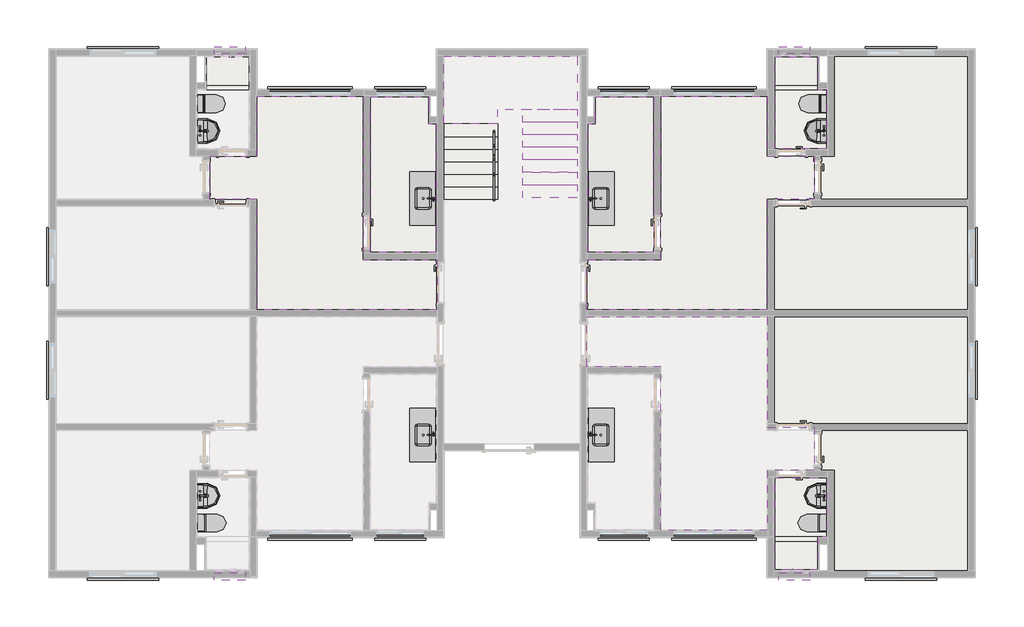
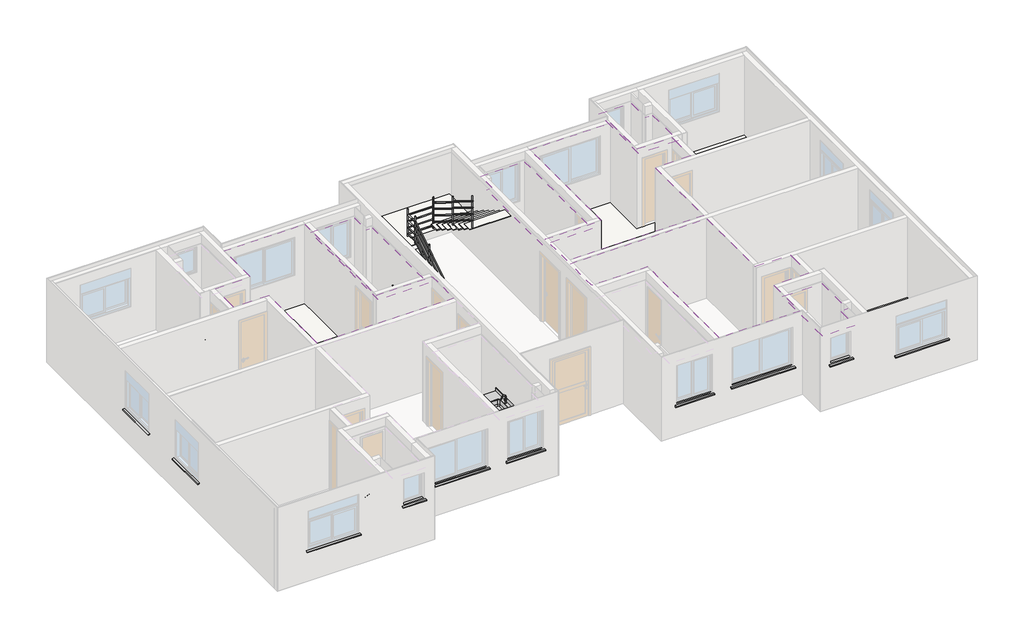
# One storey, part 9 of 9: 31 slabs, 24 flow terminals, 20 proxies, 7 coverings, 4 furniture elements, 1 railing.
"""IFC4 building model written with IfcOpenShell, lengths in millimetres."""

from ifc_helpers import new_model, si_unit, frame, origin, place, context, project, spatial, polyline, outline, extrude, faceted_brep, transform, mapped, element, save
from components import peitoril_peitoril_3_cm_d5d00cd0, peitoril_peitoril_3_cm_9406f1cb, peitoril_peitoril_3_cm_188c827f, peitoril_peitoril_3_cm_88708ed2, peitoril_peitoril_3_cm_319a31b0, peitoril_peitoril_3_cm_ceeb61d0, peitoril_peitoril_3_cm_04364ac9, peitoril_peitoril_3_cm_3798d146, peitoril_peitoril_3_cm_e052e7be, peitoril_peitoril_3_cm_b809ef5a, flow_terminal_fb00f1ee, flow_terminal_a2c34cfb, flow_terminal_2b854958, flow_terminal_a1eea942, flow_terminal_109c0629, flow_terminal_5e795d7a, flow_terminal_b1bb3d39, flow_terminal_9a69dd1e, flow_terminal_59b935d0, flow_terminal_63f1f31f, furniture_4236819a, furniture_3bfc2c75, metalico_900mm_db347fa3

model = new_model("IFC4")

# Units and contexts
model_context = context("Model", 3, world=origin())
ifc_project = project(units=[si_unit("LENGTHUNIT", "METRE", prefix="MILLI")], contexts=[model_context])

# Site, building, storey
site = spatial("IfcSite", under=ifc_project)
building = spatial("IfcBuilding", under=site)
storey = spatial("IfcBuildingStorey", under=building, Name="3º Pavimento", Elevation=5260.0)

# Proxies
placement = place(None, origin())
peitoril_peitoril_3_cm_shape = peitoril_peitoril_3_cm_d5d00cd0(model_context)
element("IfcBuildingElementProxy", 1, Name="Peitoril : Peitoril 3 cm", ObjectType="Peitoril : Peitoril 3 cm", at=placement, inside=storey, context=model_context, shape_type="MappedRepresentation", body=[
    mapped(peitoril_peitoril_3_cm_shape, transform((1513.1839943, 12261.3233304, 5350.0), x_axis=(1.0, 0.0, 0.0), y_axis=(0.0, 1.0, 0.0), z_axis=(0.0, 0.0, 1.0))),
])
element("IfcBuildingElementProxy", 2, Name="Peitoril : Peitoril 3 cm", ObjectType="Peitoril : Peitoril 3 cm", at=placement, inside=storey, context=model_context, shape_type="MappedRepresentation", body=[
    mapped(peitoril_peitoril_3_cm_shape, transform((19306.810713, 538.6971587, 5350.0), x_axis=(-1.0, 0.0, 0.0), y_axis=(0.0, -1.0, 0.0), z_axis=(0.0, 0.0, 1.0))),
])
peitoril_peitoril_3_cm_2_shape = peitoril_peitoril_3_cm_9406f1cb(model_context)
element("IfcBuildingElementProxy", 3, Name="Peitoril : Peitoril 3 cm", ObjectType="Peitoril : Peitoril 3 cm", at=placement, inside=storey, context=model_context, shape_type="MappedRepresentation", body=[
    mapped(peitoril_peitoril_3_cm_2_shape, transform((88.7010956, 7513.1959901, 5350.0), x_axis=(0.0, 1.0, 0.0), y_axis=(-1.0, 0.0, 0.0), z_axis=(0.0, 0.0, 1.0))),
])
element("IfcBuildingElementProxy", 4, Name="Peitoril : Peitoril 3 cm", ObjectType="Peitoril : Peitoril 3 cm", at=placement, inside=storey, context=model_context, shape_type="MappedRepresentation", body=[
    mapped(peitoril_peitoril_3_cm_2_shape, transform((88.7010956, 4963.1957378, 5350.0), x_axis=(0.0, 1.0, 0.0), y_axis=(-1.0, 0.0, 0.0), z_axis=(0.0, 0.0, 1.0))),
])
peitoril_peitoril_3_cm_3_shape = peitoril_peitoril_3_cm_188c827f(model_context)
element("IfcBuildingElementProxy", 5, Name="Peitoril : Peitoril 3 cm", ObjectType="Peitoril : Peitoril 3 cm", at=placement, inside=storey, context=model_context, shape_type="MappedRepresentation", body=[
    mapped(peitoril_peitoril_3_cm_3_shape, transform((5713.1848, 11361.3203873, 5350.0), x_axis=(1.0, 0.0, 0.0), y_axis=(0.0, 1.0, 0.0), z_axis=(0.0, 0.0, 1.0))),
])
element("IfcBuildingElementProxy", 6, Name="Peitoril : Peitoril 3 cm", ObjectType="Peitoril : Peitoril 3 cm", at=placement, inside=storey, context=model_context, shape_type="MappedRepresentation", body=[
    mapped(peitoril_peitoril_3_cm_3_shape, transform((15106.8099074, 1438.7002405, 5350.0), x_axis=(-1.0, 0.0, 0.0), y_axis=(0.0, -1.0, 0.0), z_axis=(0.0, 0.0, 1.0))),
])
peitoril_peitoril_3_cm_4_shape = peitoril_peitoril_3_cm_88708ed2(model_context)
element("IfcBuildingElementProxy", 7, Name="Peitoril : Peitoril 3 cm", ObjectType="Peitoril : Peitoril 3 cm", at=placement, inside=storey, context=model_context, shape_type="MappedRepresentation", body=[
    mapped(peitoril_peitoril_3_cm_4_shape, transform((3908.1841972, 12261.3236799, 5750.0), x_axis=(1.0, 0.0, 0.0), y_axis=(0.0, 1.0, 0.0), z_axis=(0.0, 0.0, 1.0))),
])
element("IfcBuildingElementProxy", 8, Name="Peitoril : Peitoril 3 cm", ObjectType="Peitoril : Peitoril 3 cm", at=placement, inside=storey, context=model_context, shape_type="MappedRepresentation", body=[
    mapped(peitoril_peitoril_3_cm_4_shape, transform((16911.8105102, 538.6971587, 5750.0), x_axis=(-1.0, 0.0, 0.0), y_axis=(0.0, -1.0, 0.0), z_axis=(0.0, 0.0, 1.0))),
])
peitoril_peitoril_3_cm_5_shape = peitoril_peitoril_3_cm_319a31b0(model_context)
element("IfcBuildingElementProxy", 9, Name="Peitoril : Peitoril 3 cm", ObjectType="Peitoril : Peitoril 3 cm", at=placement, inside=storey, context=model_context, shape_type="MappedRepresentation", body=[
    mapped(peitoril_peitoril_3_cm_5_shape, transform((7738.18476, 11361.3203873, 5350.0), x_axis=(1.0, 0.0, 0.0), y_axis=(0.0, 1.0, 0.0), z_axis=(0.0, 0.0, 1.0))),
])
element("IfcBuildingElementProxy", 10, Name="Peitoril : Peitoril 3 cm", ObjectType="Peitoril : Peitoril 3 cm", at=placement, inside=storey, context=model_context, shape_type="MappedRepresentation", body=[
    mapped(peitoril_peitoril_3_cm_5_shape, transform((8061.8136599, 1438.7002405, 5350.0), x_axis=(-1.0, 0.0, 0.0), y_axis=(0.0, -1.0, 0.0), z_axis=(0.0, 0.0, 1.0))),
])
peitoril_peitoril_3_cm_6_shape = peitoril_peitoril_3_cm_ceeb61d0(model_context)
element("IfcBuildingElementProxy", 11, Name="Peitoril : Peitoril 3 cm", ObjectType="Peitoril : Peitoril 3 cm", at=placement, inside=storey, context=model_context, shape_type="MappedRepresentation", body=[
    mapped(peitoril_peitoril_3_cm_6_shape, transform((5713.1848, 1438.7002405, 5350.0), x_axis=(1.0, 0.0, 0.0), y_axis=(0.0, 1.0, 0.0), z_axis=(0.0, 0.0, 1.0))),
])
element("IfcBuildingElementProxy", 12, Name="Peitoril : Peitoril 3 cm", ObjectType="Peitoril : Peitoril 3 cm", at=placement, inside=storey, context=model_context, shape_type="MappedRepresentation", body=[
    mapped(peitoril_peitoril_3_cm_6_shape, transform((15106.8099074, 11361.3203873, 5350.0), x_axis=(-1.0, 0.0, 0.0), y_axis=(0.0, -1.0, 0.0), z_axis=(0.0, 0.0, 1.0))),
])
peitoril_peitoril_3_cm_7_shape = peitoril_peitoril_3_cm_04364ac9(model_context)
element("IfcBuildingElementProxy", 13, Name="Peitoril : Peitoril 3 cm", ObjectType="Peitoril : Peitoril 3 cm", at=placement, inside=storey, context=model_context, shape_type="MappedRepresentation", body=[
    mapped(peitoril_peitoril_3_cm_7_shape, transform((1513.1839943, 538.6971587, 5350.0), x_axis=(1.0, 0.0, 0.0), y_axis=(0.0, 1.0, 0.0), z_axis=(0.0, 0.0, 1.0))),
])
element("IfcBuildingElementProxy", 14, Name="Peitoril : Peitoril 3 cm", ObjectType="Peitoril : Peitoril 3 cm", at=placement, inside=storey, context=model_context, shape_type="MappedRepresentation", body=[
    mapped(peitoril_peitoril_3_cm_7_shape, transform((19306.810713, 12261.3233304, 5350.0), x_axis=(-1.0, 0.0, 0.0), y_axis=(0.0, -1.0, 0.0), z_axis=(0.0, 0.0, 1.0))),
])
peitoril_peitoril_3_cm_8_shape = peitoril_peitoril_3_cm_3798d146(model_context)
element("IfcBuildingElementProxy", 15, Name="Peitoril : Peitoril 3 cm", ObjectType="Peitoril : Peitoril 3 cm", at=placement, inside=storey, context=model_context, shape_type="MappedRepresentation", body=[
    mapped(peitoril_peitoril_3_cm_8_shape, transform((3908.1841972, 538.6971587, 5750.0), x_axis=(1.0, 0.0, 0.0), y_axis=(0.0, 1.0, 0.0), z_axis=(0.0, 0.0, 1.0))),
])
element("IfcBuildingElementProxy", 16, Name="Peitoril : Peitoril 3 cm", ObjectType="Peitoril : Peitoril 3 cm", at=placement, inside=storey, context=model_context, shape_type="MappedRepresentation", body=[
    mapped(peitoril_peitoril_3_cm_8_shape, transform((16911.8105102, 12261.3236799, 5750.0), x_axis=(-1.0, 0.0, 0.0), y_axis=(0.0, -1.0, 0.0), z_axis=(0.0, 0.0, 1.0))),
])
peitoril_peitoril_3_cm_9_shape = peitoril_peitoril_3_cm_e052e7be(model_context)
element("IfcBuildingElementProxy", 17, Name="Peitoril : Peitoril 3 cm", ObjectType="Peitoril : Peitoril 3 cm", at=placement, inside=storey, context=model_context, shape_type="MappedRepresentation", body=[
    mapped(peitoril_peitoril_3_cm_9_shape, transform((20731.2936118, 7513.1959901, 5350.0), x_axis=(0.0, 1.0, 0.0), y_axis=(-1.0, 0.0, 0.0), z_axis=(0.0, 0.0, 1.0))),
])
element("IfcBuildingElementProxy", 18, Name="Peitoril : Peitoril 3 cm", ObjectType="Peitoril : Peitoril 3 cm", at=placement, inside=storey, context=model_context, shape_type="MappedRepresentation", body=[
    mapped(peitoril_peitoril_3_cm_9_shape, transform((20731.2936118, 4963.1957378, 5350.0), x_axis=(0.0, 1.0, 0.0), y_axis=(-1.0, 0.0, 0.0), z_axis=(0.0, 0.0, 1.0))),
])
peitoril_peitoril_3_cm_10_shape = peitoril_peitoril_3_cm_b809ef5a(model_context)
element("IfcBuildingElementProxy", 19, Name="Peitoril : Peitoril 3 cm", ObjectType="Peitoril : Peitoril 3 cm", at=placement, inside=storey, context=model_context, shape_type="MappedRepresentation", body=[
    mapped(peitoril_peitoril_3_cm_10_shape, transform((13081.8099474, 11361.3203873, 5350.0), x_axis=(-1.0, 0.0, 0.0), y_axis=(0.0, -1.0, 0.0), z_axis=(0.0, 0.0, 1.0))),
])
element("IfcBuildingElementProxy", 20, Name="Peitoril : Peitoril 3 cm", ObjectType="Peitoril : Peitoril 3 cm", at=placement, inside=storey, context=model_context, shape_type="MappedRepresentation", body=[
    mapped(peitoril_peitoril_3_cm_10_shape, transform((12758.1810474, 1438.7002405, 5350.0), x_axis=(1.0, 0.0, 0.0), y_axis=(0.0, 1.0, 0.0), z_axis=(0.0, 0.0, 1.0))),
])

# Coverings
element("IfcCovering", 21, ObjectType="Forro - Gesso acartonado + Pintura", at=placement, inside=storey, context=model_context, shape_type="Brep", body=[
    faceted_brep([(7233.0017324, 11260.0223004, 7461.0), (8536.99631, 11260.0223004, 7461.0), (8536.99631, 10655.0073729, 7461.0), (8709.9963008, 10655.0073729, 7461.0), (8709.9963008, 7766.3603139, 7461.0), (7233.0017324, 7766.3603139, 7461.0), (7233.0017324, 10655.0073729, 7461.0), (7233.0017324, 11260.0223004, 7481.0), (7233.0017324, 10655.0073729, 7481.0), (7233.0017324, 7766.3603139, 7481.0), (8709.9963008, 7766.3603139, 7481.0), (8709.9963008, 10655.0073729, 7481.0), (8536.99631, 10655.0073729, 7481.0), (8536.99631, 11260.0223004, 7481.0)], [[[0, 1, 2, 3, 4, 5, 6]], [[7, 8, 9, 10, 11, 12, 13]], [[7, 13, 1, 0]], [[13, 12, 2, 1]], [[12, 11, 3, 2]], [[11, 10, 4, 3]], [[10, 9, 5, 4]], [[9, 8, 7, 0, 6, 5]]]),
    faceted_brep([(8536.99631, 11260.0223004, 7460.0), (7233.0017324, 11260.0223004, 7460.0), (7233.0017324, 11260.0223004, 7461.0), (8536.99631, 11260.0223004, 7461.0), (8536.99631, 10655.0073729, 7460.0), (8536.99631, 10655.0073729, 7461.0), (8709.9963008, 10655.0073729, 7460.0), (8709.9963008, 10655.0073729, 7461.0), (8709.9963008, 7766.3603139, 7460.0), (8709.9963008, 7766.3603139, 7461.0), (7233.0017324, 7766.3603139, 7460.0), (7233.0017324, 7766.3603139, 7461.0), (7233.0017324, 10655.0073729, 7460.0), (7233.0017324, 10655.0073729, 7461.0)], [[[0, 1, 2, 3]], [[4, 0, 3, 5]], [[6, 4, 5, 7]], [[8, 6, 7, 9]], [[10, 8, 9, 11]], [[12, 10, 11, 13, 2, 1]], [[3, 2, 13, 11, 9, 7, 5]], [[1, 0, 4, 6, 8, 10, 12]]]),
])
element("IfcCovering", 22, ObjectType="Forro - Gesso acartonado + Pintura", at=placement, inside=storey, context=model_context, shape_type="Brep", body=[
    faceted_brep([(12282.9983974, 11260.0223004, 7461.0), (13586.992975, 11260.0223004, 7461.0), (13586.992975, 10655.0073729, 7461.0), (13586.992975, 7766.3603139, 7461.0), (12109.9984066, 7766.3603139, 7461.0), (12109.9984066, 10655.0073729, 7461.0), (12282.9983974, 10655.0073729, 7461.0), (13586.992975, 11260.0223004, 7481.0), (12282.9983974, 11260.0223004, 7481.0), (12282.9983974, 10655.0073729, 7481.0), (12109.9984066, 10655.0073729, 7481.0), (12109.9984066, 7766.3603139, 7481.0), (13586.992975, 7766.3603139, 7481.0), (13586.992975, 10655.0073729, 7481.0)], [[[0, 1, 2, 3, 4, 5, 6]], [[7, 8, 9, 10, 11, 12, 13]], [[8, 7, 1, 0]], [[9, 8, 0, 6]], [[10, 9, 6, 5]], [[11, 10, 5, 4]], [[12, 11, 4, 3]], [[7, 13, 12, 3, 2, 1]]]),
    faceted_brep([(13586.992975, 11260.0223004, 7460.0), (12282.9983974, 11260.0223004, 7460.0), (12282.9983974, 11260.0223004, 7461.0), (13586.992975, 11260.0223004, 7461.0), (12282.9983974, 10655.0073729, 7460.0), (12282.9983974, 10655.0073729, 7461.0), (12109.9984066, 10655.0073729, 7460.0), (12109.9984066, 10655.0073729, 7461.0), (12109.9984066, 7766.3603139, 7460.0), (12109.9984066, 7766.3603139, 7461.0), (13586.992975, 7766.3603139, 7460.0), (13586.992975, 7766.3603139, 7461.0), (13586.992975, 10655.0073729, 7460.0), (13586.992975, 10655.0073729, 7461.0)], [[[0, 1, 2, 3]], [[1, 4, 5, 2]], [[4, 6, 7, 5]], [[6, 8, 9, 7]], [[8, 10, 11, 9]], [[12, 0, 3, 13, 11, 10]], [[3, 2, 5, 7, 9, 11, 13]], [[0, 12, 10, 8, 6, 4, 1]]]),
])
element("IfcCovering", 23, ObjectType="Forro - Gesso acartonado + Pintura", at=placement, inside=storey, context=model_context, shape_type="Brep", body=[
    faceted_brep([(16309.9956991, 2709.9967615, 7461.0), (17479.9970535, 2709.9967615, 7461.0), (17479.9970535, 1379.9983274, 7461.0), (17270.0007274, 1379.9983274, 7461.0), (17270.0007274, 639.9950349, 7461.0), (16309.9956991, 639.9950349, 7461.0), (16309.9956991, 1379.9983274, 7461.0), (16309.9956991, 2709.9967615, 7481.0), (16309.9956991, 1379.9983274, 7481.0), (16309.9956991, 639.9950349, 7481.0), (17270.0007274, 639.9950349, 7481.0), (17270.0007274, 1379.9983274, 7481.0), (17479.9970535, 1379.9983274, 7481.0), (17479.9970535, 2709.9967615, 7481.0)], [[[0, 1, 2, 3, 4, 5, 6]], [[7, 8, 9, 10, 11, 12, 13]], [[7, 13, 1, 0]], [[13, 12, 2, 1]], [[12, 11, 3, 2]], [[11, 10, 4, 3]], [[10, 9, 5, 4]], [[9, 8, 7, 0, 6, 5]]]),
    faceted_brep([(17479.9970535, 2709.9967615, 7460.0), (16309.9956991, 2709.9967615, 7460.0), (16309.9956991, 2709.9967615, 7461.0), (17479.9970535, 2709.9967615, 7461.0), (17479.9970535, 1379.9983274, 7460.0), (17479.9970535, 1379.9983274, 7461.0), (17270.0007274, 1379.9983274, 7460.0), (17270.0007274, 1379.9983274, 7461.0), (17270.0007274, 639.9950349, 7460.0), (17270.0007274, 639.9950349, 7461.0), (16309.9956991, 639.9950349, 7460.0), (16309.9956991, 639.9950349, 7461.0), (16309.9956991, 1379.9983274, 7460.0), (16309.9956991, 1379.9983274, 7461.0)], [[[0, 1, 2, 3]], [[4, 0, 3, 5]], [[6, 4, 5, 7]], [[8, 6, 7, 9]], [[10, 8, 9, 11]], [[12, 10, 11, 13, 2, 1]], [[3, 2, 13, 11, 9, 7, 5]], [[1, 0, 4, 6, 8, 10, 12]]]),
])
element("IfcCovering", 24, ObjectType="Forro - Gesso acartonado + Pintura", at=placement, inside=storey, context=model_context, shape_type="Brep", body=[
    faceted_brep([(17479.9970535, 10090.0238664, 7461.0), (16309.9956991, 10090.0238664, 7461.0), (16309.9956991, 11420.0223004, 7461.0), (16309.9956991, 12160.025593, 7461.0), (17270.0007274, 12160.025593, 7461.0), (17270.0007274, 11420.0223004, 7461.0), (17479.9970535, 11420.0223004, 7461.0), (16309.9956991, 10090.0238664, 7481.0), (17479.9970535, 10090.0238664, 7481.0), (17479.9970535, 11420.0223004, 7481.0), (17270.0007274, 11420.0223004, 7481.0), (17270.0007274, 12160.025593, 7481.0), (16309.9956991, 12160.025593, 7481.0), (16309.9956991, 11420.0223004, 7481.0)], [[[0, 1, 2, 3, 4, 5, 6]], [[7, 8, 9, 10, 11, 12, 13]], [[8, 7, 1, 0]], [[9, 8, 0, 6]], [[10, 9, 6, 5]], [[11, 10, 5, 4]], [[12, 11, 4, 3]], [[7, 13, 12, 3, 2, 1]]]),
    faceted_brep([(16309.9956991, 10090.0238664, 7460.0), (17479.9970535, 10090.0238664, 7460.0), (17479.9970535, 10090.0238664, 7461.0), (16309.9956991, 10090.0238664, 7461.0), (17479.9970535, 11420.0223004, 7460.0), (17479.9970535, 11420.0223004, 7461.0), (17270.0007274, 11420.0223004, 7460.0), (17270.0007274, 11420.0223004, 7461.0), (17270.0007274, 12160.025593, 7460.0), (17270.0007274, 12160.025593, 7461.0), (16309.9956991, 12160.025593, 7460.0), (16309.9956991, 12160.025593, 7461.0), (16309.9956991, 11420.0223004, 7460.0), (16309.9956991, 11420.0223004, 7461.0)], [[[0, 1, 2, 3]], [[1, 4, 5, 2]], [[4, 6, 7, 5]], [[6, 8, 9, 7]], [[8, 10, 11, 9]], [[12, 0, 3, 13, 11, 10]], [[3, 2, 5, 7, 9, 11, 13]], [[0, 12, 10, 8, 6, 4, 1]]]),
])
element("IfcCovering", 25, ObjectType="Textura Laje", at=placement, inside=storey, context=model_context, shape_type="SweptSolid", body=[
    extrude(outline(polyline([(174.9991825, 12175.0252435), (3174.9977061, 12175.0252435), (3174.9977061, 9925.0238664), (3474.9980641, 9925.0238664), (3474.9980641, 8955.0254246), (174.9991825, 8955.0254246), (174.9991825, 12175.0252435)])), frame((0.0, 0.0, 7768.0), z_axis=(0.0, 0.0, 1.0), x_axis=(1.0, 0.0, 0.0)), (0.0, 0.0, 1.0), 2.0),
    extrude(outline(polyline([(174.9992567, 8805.0103139), (4524.9996867, 8805.0103139), (4524.9996867, 6475.0103139), (174.9992567, 6475.0103139), (174.9992567, 8805.0103139)])), frame((0.0, 0.0, 7768.0), z_axis=(0.0, 0.0, 1.0), x_axis=(1.0, 0.0, 0.0)), (0.0, 0.0, 1.0), 2.0),
    extrude(outline(polyline([(4675.9996867, 8956.0244803), (3625.9980641, 8956.0244803), (3625.9980641, 9924.0238664), (4675.9990083, 9924.0238664), (4675.9990083, 11274.0223004), (7066.9986861, 11274.0223004), (7066.9986861, 7600.3603139), (8709.865378, 7600.3603139), (8729.9963008, 7600.3603139), (8729.9963008, 6476.0103139), (4675.9996867, 6476.0103139), (4675.9996867, 8956.0244803)])), frame((0.0, 0.0, 7768.0), z_axis=(0.0, 0.0, 1.0), x_axis=(1.0, 0.0, 0.0)), (0.0, 0.0, 1.0), 2.0),
])
element("IfcCovering", 26, ObjectType="Textura Laje", at=placement, inside=storey, context=model_context, shape_type="SweptSolid", body=[
    extrude(outline(polyline([(20644.9955249, 12175.0252435), (20644.9955249, 8955.0254246), (17344.9966432, 8955.0254246), (17344.9966432, 9925.0238664), (17644.9970013, 9925.0238664), (17644.9970013, 12175.0252435), (20644.9955249, 12175.0252435)])), frame((0.0, 0.0, 7768.0), z_axis=(0.0, 0.0, 1.0), x_axis=(1.0, 0.0, 0.0)), (0.0, 0.0, 1.0), 2.0),
    extrude(outline(polyline([(20644.9954507, 8805.0103139), (20644.9954507, 6475.0103139), (16294.9950207, 6475.0103139), (16294.9950207, 8805.0103139), (20644.9954507, 8805.0103139)])), frame((0.0, 0.0, 7768.0), z_axis=(0.0, 0.0, 1.0), x_axis=(1.0, 0.0, 0.0)), (0.0, 0.0, 1.0), 2.0),
    extrude(outline(polyline([(16143.9950207, 8956.0244803), (16143.9950207, 6476.0103139), (12089.9984066, 6476.0103139), (12089.9984066, 7600.3603139), (12110.1293293, 7600.3603139), (13752.9960213, 7600.3603139), (13752.9960213, 11274.0223004), (16143.9956991, 11274.0223004), (16143.9956991, 9924.0238664), (17193.9966432, 9924.0238664), (17193.9966432, 8956.0244803), (16143.9950207, 8956.0244803)])), frame((0.0, 0.0, 7768.0), z_axis=(0.0, 0.0, 1.0), x_axis=(1.0, 0.0, 0.0)), (0.0, 0.0, 1.0), 2.0),
])
element("IfcCovering", 27, ObjectType="Textura Laje", at=placement, inside=storey, context=model_context, shape_type="SweptSolid", body=[
    extrude(outline(polyline([(20644.9955249, 624.9953844), (17644.9970013, 624.9953844), (17644.9970013, 2874.9967615), (17344.9966432, 2874.9967615), (17344.9966432, 3844.9952033), (20644.9955249, 3844.9952033), (20644.9955249, 624.9953844)])), frame((0.0, 0.0, 7768.0), z_axis=(0.0, 0.0, 1.0), x_axis=(1.0, 0.0, 0.0)), (0.0, 0.0, 1.0), 2.0),
    extrude(outline(polyline([(20644.9954507, 3995.0103139), (16294.9950207, 3995.0103139), (16294.9950207, 6325.0103139), (20644.9954507, 6325.0103139), (20644.9954507, 3995.0103139)])), frame((0.0, 0.0, 7768.0), z_axis=(0.0, 0.0, 1.0), x_axis=(1.0, 0.0, 0.0)), (0.0, 0.0, 1.0), 2.0),
    extrude(outline(polyline([(16143.9950207, 3843.9961476), (17193.9966432, 3843.9961476), (17193.9966432, 2875.9967615), (16143.9956991, 2875.9967615), (16143.9956991, 1525.9983274), (13752.9960213, 1525.9983274), (13752.9960213, 5199.6603139), (12110.1293293, 5199.6603139), (12089.9984066, 5199.6603139), (12089.9984066, 6324.0103139), (16143.9950207, 6324.0103139), (16143.9950207, 3843.9961476)])), frame((0.0, 0.0, 7768.0), z_axis=(0.0, 0.0, 1.0), x_axis=(1.0, 0.0, 0.0)), (0.0, 0.0, 1.0), 2.0),
])

# Flow terminals
flow_terminal_shape = flow_terminal_fb00f1ee(model_context)
element("IfcFlowTerminal", 28, ObjectType="Deca_Shared_Assento_P.280 : Bacia Sanitária - Assento", at=placement, inside=storey, context=model_context, shape_type="MappedRepresentation", body=[
    mapped(flow_terminal_shape, transform((3526.0519567, 11100.2075997, 5670.0300928), x_axis=(0.0, 1.0, 0.0), y_axis=(0.0, 0.0, 1.0), z_axis=(1.0, 0.0, 0.0))),
])
element("IfcFlowTerminal", 29, ObjectType="Deca_Shared_Assento_P.280 : Bacia Sanitária - Assento", at=placement, inside=storey, context=model_context, shape_type="MappedRepresentation", body=[
    mapped(flow_terminal_shape, transform((17278.9427506, 1699.8130281, 5670.0300928), x_axis=(0.0, -1.0, 0.0), y_axis=(0.0, 0.0, 1.0), z_axis=(-1.0, 0.0, 0.0))),
])
flow_terminal_2_shape = flow_terminal_a2c34cfb(model_context)
element("IfcFlowTerminal", 30, ObjectType="DECA_BACIA SANITARIA WISH_P.280_CAIXA ACOPLADA : Bacia Sanitária - Caixa Acoplada Inferior", at=placement, inside=storey, context=model_context, shape_type="MappedRepresentation", body=[
    mapped(flow_terminal_2_shape, transform((3319.9976538, 11105.9659033, 5270.0), x_axis=(0.0, 1.0, 0.0), y_axis=(0.0, 0.0, 1.0), z_axis=(1.0, 0.0, 0.0))),
])
element("IfcFlowTerminal", 31, ObjectType="DECA_BACIA SANITARIA WISH_P.280_CAIXA ACOPLADA : Bacia Sanitária - Caixa Acoplada Inferior", at=placement, inside=storey, context=model_context, shape_type="MappedRepresentation", body=[
    mapped(flow_terminal_2_shape, transform((17484.9970535, 1694.0547246, 5270.0), x_axis=(0.0, -1.0, 0.0), y_axis=(0.0, 0.0, 1.0), z_axis=(-1.0, 0.0, 0.0))),
])
flow_terminal_3_shape = flow_terminal_2b854958(model_context)
element("IfcFlowTerminal", 32, ObjectType="Deca_Shared_Caixa Acoplada para Bacia_P.280 : Bacia Sanitária - Caixa Acoplada", at=placement, inside=storey, context=model_context, shape_type="MappedRepresentation", body=[
    mapped(flow_terminal_3_shape, transform((3329.9976538, 11105.9657159, 5670.0300928), x_axis=(0.0, 1.0, 0.0), y_axis=(0.0, 0.0, 1.0), z_axis=(1.0, 0.0, 0.0))),
])
element("IfcFlowTerminal", 33, ObjectType="Deca_Shared_Caixa Acoplada para Bacia_P.280 : Bacia Sanitária - Caixa Acoplada", at=placement, inside=storey, context=model_context, shape_type="MappedRepresentation", body=[
    mapped(flow_terminal_3_shape, transform((17474.9970535, 1694.0549119, 5670.0300928), x_axis=(0.0, -1.0, 0.0), y_axis=(0.0, 0.0, 1.0), z_axis=(-1.0, 0.0, 0.0))),
])
flow_terminal_4_shape = flow_terminal_a1eea942(model_context)
element("IfcFlowTerminal", 34, ObjectType="DECA_BACIA SANITARIA WISH_P.280_CAIXA ACOPLADA : Bacia Sanitária - Caixa Acoplada Inferior", at=placement, inside=storey, context=model_context, shape_type="MappedRepresentation", body=[
    mapped(flow_terminal_4_shape, transform((3334.9976538, 1694.0547246, 5270.0), x_axis=(0.0, -1.0, 0.0), y_axis=(0.0, 0.0, -1.0), z_axis=(1.0, 0.0, 0.0))),
])
element("IfcFlowTerminal", 35, ObjectType="DECA_BACIA SANITARIA WISH_P.280_CAIXA ACOPLADA : Bacia Sanitária - Caixa Acoplada Inferior", at=placement, inside=storey, context=model_context, shape_type="MappedRepresentation", body=[
    mapped(flow_terminal_4_shape, transform((17499.9970535, 11105.9659033, 5270.0), x_axis=(0.0, 1.0, 0.0), y_axis=(0.0, 0.0, -1.0), z_axis=(-1.0, 0.0, 0.0))),
])
flow_terminal_5_shape = flow_terminal_109c0629(model_context)
element("IfcFlowTerminal", 36, ObjectType="Deca_Shared_Caixa Acoplada para Bacia_P.280 : Bacia Sanitária - Caixa Acoplada", at=placement, inside=storey, context=model_context, shape_type="MappedRepresentation", body=[
    mapped(flow_terminal_5_shape, transform((3344.9976538, 1694.0549119, 5670.0300928), x_axis=(0.0, -1.0, 0.0), y_axis=(0.0, 0.0, -1.0), z_axis=(1.0, 0.0, 0.0))),
])
element("IfcFlowTerminal", 37, ObjectType="Deca_Shared_Caixa Acoplada para Bacia_P.280 : Bacia Sanitária - Caixa Acoplada", at=placement, inside=storey, context=model_context, shape_type="MappedRepresentation", body=[
    mapped(flow_terminal_5_shape, transform((17489.9970535, 11105.9657159, 5670.0300928), x_axis=(0.0, 1.0, 0.0), y_axis=(0.0, 0.0, -1.0), z_axis=(-1.0, 0.0, 0.0))),
])
flow_terminal_6_shape = flow_terminal_5e795d7a(model_context)
element("IfcFlowTerminal", 38, ObjectType="Deca_Shared_Assento_P.280 : Bacia Sanitária - Assento", at=placement, inside=storey, context=model_context, shape_type="MappedRepresentation", body=[
    mapped(flow_terminal_6_shape, transform((3541.0519567, 1699.8130281, 5670.0300928), x_axis=(0.0, -1.0, 0.0), y_axis=(0.0, 0.0, -1.0), z_axis=(1.0, 0.0, 0.0))),
])
element("IfcFlowTerminal", 39, ObjectType="Deca_Shared_Assento_P.280 : Bacia Sanitária - Assento", at=placement, inside=storey, context=model_context, shape_type="MappedRepresentation", body=[
    mapped(flow_terminal_6_shape, transform((17293.9427506, 11100.2075997, 5670.0300928), x_axis=(0.0, 1.0, 0.0), y_axis=(0.0, 0.0, -1.0), z_axis=(-1.0, 0.0, 0.0))),
])
flow_terminal_7_shape = flow_terminal_b1bb3d39(model_context)
element("IfcFlowTerminal", 40, ObjectType="Deca_Lavatorio Belle Epoque_L.2_Coluna : Pia Banho", at=placement, inside=storey, context=model_context, shape_type="MappedRepresentation", body=[
    mapped(flow_terminal_7_shape, transform((3334.9976538, 2304.9967615, 6053.6791778), x_axis=(0.0, 1.0, 0.0), y_axis=(0.0, 0.0, 1.0), z_axis=(1.0, 0.0, 0.0))),
])
element("IfcFlowTerminal", 41, ObjectType="Deca_Lavatorio Belle Epoque_L.2_Coluna : Pia Banho", at=placement, inside=storey, context=model_context, shape_type="MappedRepresentation", body=[
    mapped(flow_terminal_7_shape, transform((17484.9970535, 10495.0238664, 6053.6791778), x_axis=(0.0, -1.0, 0.0), y_axis=(0.0, 0.0, 1.0), z_axis=(-1.0, 0.0, 0.0))),
])
flow_terminal_8_shape = flow_terminal_9a69dd1e(model_context)
element("IfcFlowTerminal", 42, ObjectType="Deca_Lavatorio Belle Epoque_L.2_Coluna : Pia Banho", at=placement, inside=storey, context=model_context, shape_type="MappedRepresentation", body=[
    mapped(flow_terminal_8_shape, transform((3334.9976538, 10495.0238664, 6053.6791778), x_axis=(0.0, -1.0, 0.0), y_axis=(0.0, 0.0, -1.0), z_axis=(1.0, 0.0, 0.0))),
])
element("IfcFlowTerminal", 43, ObjectType="Deca_Lavatorio Belle Epoque_L.2_Coluna : Pia Banho", at=placement, inside=storey, context=model_context, shape_type="MappedRepresentation", body=[
    mapped(flow_terminal_8_shape, transform((17484.9970535, 2304.9967615, 6053.6791778), x_axis=(0.0, 1.0, 0.0), y_axis=(0.0, 0.0, -1.0), z_axis=(-1.0, 0.0, 0.0))),
])
flow_terminal_9_shape = flow_terminal_59b935d0(model_context)
element("IfcFlowTerminal", 44, ObjectType="Deca_Torneira Lavatorio Izy Plus_1198.C24_Mesa Bica Alta : Torneira Cozinha", at=placement, inside=storey, context=model_context, shape_type="MappedRepresentation", body=[
    mapped(flow_terminal_9_shape, transform((8646.99867, 8980.0223004, 6210.0), x_axis=(0.0, -1.0, 0.0), y_axis=(1.0, 0.0, 0.0), z_axis=(0.0, 0.0, 1.0))),
])
element("IfcFlowTerminal", 45, ObjectType="Deca_Torneira Lavatorio Izy Plus_1198.C24_Mesa Bica Alta : Torneira Cozinha", at=placement, inside=storey, context=model_context, shape_type="MappedRepresentation", body=[
    mapped(flow_terminal_9_shape, transform((3406.8910521, 10494.3801324, 6071.5038992), x_axis=(0.0, 1.0, 0.0), y_axis=(-1.0, 0.0, 0.0), z_axis=(0.0, 0.0, 1.0))),
])
element("IfcFlowTerminal", 46, ObjectType="Deca_Torneira Lavatorio Izy Plus_1198.C24_Mesa Bica Alta : Torneira Cozinha", at=placement, inside=storey, context=model_context, shape_type="MappedRepresentation", body=[
    mapped(flow_terminal_9_shape, transform((12172.9960374, 3669.9874185, 6210.0), x_axis=(0.0, 1.0, 0.0), y_axis=(-1.0, 0.0, 0.0), z_axis=(0.0, 0.0, 1.0))),
])
element("IfcFlowTerminal", 47, ObjectType="Deca_Torneira Lavatorio Izy Plus_1198.C24_Mesa Bica Alta : Torneira Cozinha", at=placement, inside=storey, context=model_context, shape_type="MappedRepresentation", body=[
    mapped(flow_terminal_9_shape, transform((17413.1036553, 2305.6404955, 6071.5038992), x_axis=(0.0, -1.0, 0.0), y_axis=(1.0, 0.0, 0.0), z_axis=(0.0, 0.0, 1.0))),
])
flow_terminal_10_shape = flow_terminal_63f1f31f(model_context)
element("IfcFlowTerminal", 48, ObjectType="Deca_Torneira Lavatorio Izy Plus_1198.C24_Mesa Bica Alta : Torneira Cozinha", at=placement, inside=storey, context=model_context, shape_type="MappedRepresentation", body=[
    mapped(flow_terminal_10_shape, transform((8646.99867, 3669.9874185, 6210.0), x_axis=(0.0, 1.0, 0.0), y_axis=(-1.0, 0.0, 0.0), z_axis=(0.0, 0.0, 1.0))),
])
element("IfcFlowTerminal", 49, ObjectType="Deca_Torneira Lavatorio Izy Plus_1198.C24_Mesa Bica Alta : Torneira Cozinha", at=placement, inside=storey, context=model_context, shape_type="MappedRepresentation", body=[
    mapped(flow_terminal_10_shape, transform((3406.8910521, 2305.6404955, 6071.5038992), x_axis=(0.0, -1.0, 0.0), y_axis=(1.0, 0.0, 0.0), z_axis=(0.0, 0.0, 1.0))),
])
element("IfcFlowTerminal", 50, ObjectType="Deca_Torneira Lavatorio Izy Plus_1198.C24_Mesa Bica Alta : Torneira Cozinha", at=placement, inside=storey, context=model_context, shape_type="MappedRepresentation", body=[
    mapped(flow_terminal_10_shape, transform((12172.9960374, 8980.0223004, 6210.0), x_axis=(0.0, -1.0, 0.0), y_axis=(1.0, 0.0, 0.0), z_axis=(0.0, 0.0, 1.0))),
])
element("IfcFlowTerminal", 51, ObjectType="Deca_Torneira Lavatorio Izy Plus_1198.C24_Mesa Bica Alta : Torneira Cozinha", at=placement, inside=storey, context=model_context, shape_type="MappedRepresentation", body=[
    mapped(flow_terminal_10_shape, transform((17413.1036553, 10494.3801324, 6071.5038992), x_axis=(0.0, 1.0, 0.0), y_axis=(-1.0, 0.0, 0.0), z_axis=(0.0, 0.0, 1.0))),
])

# Furniture
furniture_shape = furniture_4236819a(model_context)
element("IfcFurniture", 52, ObjectType="Tampo de Bancada com Cuba : Granilite 60cm", at=placement, inside=storey, context=model_context, shape_type="MappedRepresentation", body=[
    mapped(furniture_shape, transform((8714.9986604, 8379.5600053, 5310.0), x_axis=(0.0, -1.0, 0.0), y_axis=(1.0, 0.0, 0.0), z_axis=(0.0, 0.0, 1.0))),
])
element("IfcFurniture", 53, ObjectType="Tampo de Bancada com Cuba : Granilite 60cm", at=placement, inside=storey, context=model_context, shape_type="MappedRepresentation", body=[
    mapped(furniture_shape, transform((12104.996047, 4270.4497136, 5310.0), x_axis=(0.0, 1.0, 0.0), y_axis=(-1.0, 0.0, 0.0), z_axis=(0.0, 0.0, 1.0))),
])
furniture_2_shape = furniture_3bfc2c75(model_context)
element("IfcFurniture", 54, ObjectType="Tampo de Bancada com Cuba : Granilite 60cm", at=placement, inside=storey, context=model_context, shape_type="MappedRepresentation", body=[
    mapped(furniture_2_shape, transform((8714.9986604, 4270.4497136, 5310.0), x_axis=(0.0, 1.0, 0.0), y_axis=(-1.0, 0.0, 0.0), z_axis=(0.0, 0.0, 1.0))),
])
element("IfcFurniture", 55, ObjectType="Tampo de Bancada com Cuba : Granilite 60cm", at=placement, inside=storey, context=model_context, shape_type="MappedRepresentation", body=[
    mapped(furniture_2_shape, transform((12104.996047, 8379.5600053, 5310.0), x_axis=(0.0, -1.0, 0.0), y_axis=(1.0, 0.0, 0.0), z_axis=(0.0, 0.0, 1.0))),
])

# Railing
metalico_900mm_shape = metalico_900mm_db347fa3(model_context)
element("IfcRailing", 56, ObjectType="Metalico 900mm", at=placement, inside=storey, context=model_context, shape_type="MappedRepresentation", body=[
    mapped(metalico_900mm_shape, transform((0.0, 0.0, 0.0), x_axis=(1.0, 0.0, 0.0), y_axis=(0.0, 1.0, 0.0), z_axis=(0.0, 0.0, 1.0))),
])

# Slabs
element("IfcSlab", 57, ObjectType="Pedra Basalto", at=placement, inside=storey, context=model_context, shape_type="SweptSolid", body=[
    extrude(outline(polyline([(4509.99398, 11515.0235306), (4509.99398, 11415.0235306), (3529.99398, 11415.0235306), (3529.99398, 11515.0235306), (4509.99398, 11515.0235306)])), frame((0.0, 0.0, 5350.0), z_axis=(0.0, 0.0, 1.0), x_axis=(1.0, 0.0, 0.0)), (0.0, 0.0, 1.0), 20.0),
])
element("IfcSlab", 58, ObjectType="Cerâmica piso + Impermeabilização", at=placement, inside=storey, context=model_context, shape_type="SweptSolid", body=[
    extrude(outline(polyline([(4509.99398, 11505.0235306), (3549.99398, 11505.0235306), (3549.99398, 12160.025593), (4509.99398, 12160.025593), (4509.99398, 11505.0235306)])), frame((0.0, 0.0, 5259.0), z_axis=(0.0, 0.0, 1.0), x_axis=(1.0, 0.0, 0.0)), (0.0, 0.0, 1.0), 11.0),
])
element("IfcSlab", 59, ObjectType="Cerâmica", at=placement, inside=storey, context=model_context, shape_type="SweptSolid", body=[
    extrude(outline(polyline([(8709.9963008, 7766.3603139), (7233.0017324, 7766.3603139), (7233.0017324, 10655.0073729), (7233.0017324, 11260.0223004), (8536.99631, 11260.0223004), (8536.99631, 10655.0073729), (8709.9963008, 10655.0073729), (8709.9963008, 7766.3603139)])), frame((0.0, 0.0, 5260.0), z_axis=(0.0, 0.0, 1.0), x_axis=(1.0, 0.0, 0.0)), (0.0, 0.0, 1.0), 10.0),
])
element("IfcSlab", 60, ObjectType="Cerâmica", at=placement, inside=storey, context=model_context, shape_type="SweptSolid", body=[
    extrude(outline(polyline([(8723.9963008, 6476.0103139), (4675.9996867, 6476.0103139), (4675.9996867, 8956.0244803), (3625.9980641, 8956.0244803), (3625.9980641, 9924.0238664), (4675.9990083, 9924.0238664), (4675.9990083, 11280.0223004), (7066.9986861, 11280.0223004), (7066.9986861, 7600.3603139), (8723.9963008, 7600.3603139), (8723.9963008, 6476.0103139)])), frame((0.0, 0.0, 5260.0), z_axis=(0.0, 0.0, 1.0), x_axis=(1.0, 0.0, 0.0)), (0.0, 0.0, 1.0), 10.0),
])
element("IfcSlab", 61, ObjectType="Pedra Basalto", at=placement, inside=storey, context=model_context, shape_type="SweptSolid", body=[
    extrude(outline(polyline([(16310.0007274, 11515.0235306), (17290.0007274, 11515.0235306), (17290.0007274, 11415.0235306), (16310.0007274, 11415.0235306), (16310.0007274, 11515.0235306)])), frame((0.0, 0.0, 5350.0), z_axis=(0.0, 0.0, 1.0), x_axis=(1.0, 0.0, 0.0)), (0.0, 0.0, 1.0), 20.0),
])
element("IfcSlab", 62, ObjectType="Cerâmica piso + Impermeabilização", at=placement, inside=storey, context=model_context, shape_type="SweptSolid", body=[
    extrude(outline(polyline([(16310.0007274, 1294.9970972), (17270.0007274, 1294.9970972), (17270.0007274, 639.9950349), (16310.0007274, 639.9950349), (16310.0007274, 1294.9970972)])), frame((0.0, 0.0, 5259.0), z_axis=(0.0, 0.0, 1.0), x_axis=(1.0, 0.0, 0.0)), (0.0, 0.0, 1.0), 11.0),
])
element("IfcSlab", 63, ObjectType="Pedra Basalto", at=placement, inside=storey, context=model_context, shape_type="SweptSolid", body=[
    extrude(outline(polyline([(16310.0007274, 1284.9970972), (16310.0007274, 1384.9970972), (17290.0007274, 1384.9970972), (17290.0007274, 1284.9970972), (16310.0007274, 1284.9970972)])), frame((0.0, 0.0, 5350.0), z_axis=(0.0, 0.0, 1.0), x_axis=(1.0, 0.0, 0.0)), (0.0, 0.0, 1.0), 20.0),
])
element("IfcSlab", 64, ObjectType="Cerâmica", at=placement, inside=storey, context=model_context, shape_type="SweptSolid", body=[
    extrude(outline(polyline([(16309.9956991, 1379.9970972), (16309.9956991, 2709.9967615), (17479.9970535, 2709.9967615), (17479.9970535, 1379.9970972), (16309.9956991, 1379.9970972)])), frame((0.0, 0.0, 5260.0), z_axis=(0.0, 0.0, 1.0), x_axis=(1.0, 0.0, 0.0)), (0.0, 0.0, 1.0), 10.0),
])
element("IfcSlab", 65, ObjectType="Cerâmica piso + Impermeabilização", at=placement, inside=storey, context=model_context, shape_type="SweptSolid", body=[
    extrude(outline(polyline([(16310.0007274, 11505.0235306), (16310.0007274, 12160.025593), (17270.0007274, 12160.025593), (17270.0007274, 11505.0235306), (16310.0007274, 11505.0235306)])), frame((0.0, 0.0, 5259.0), z_axis=(0.0, 0.0, 1.0), x_axis=(1.0, 0.0, 0.0)), (0.0, 0.0, 1.0), 11.0),
])
element("IfcSlab", 66, ObjectType="Cerâmica", at=placement, inside=storey, context=model_context, shape_type="SweptSolid", body=[
    extrude(outline(polyline([(16309.9956991, 11420.0235306), (17479.9970535, 11420.0235306), (17479.9970535, 10090.0238664), (16309.9956991, 10090.0238664), (16309.9956991, 11420.0235306)])), frame((0.0, 0.0, 5260.0), z_axis=(0.0, 0.0, 1.0), x_axis=(1.0, 0.0, 0.0)), (0.0, 0.0, 1.0), 10.0),
])
element("IfcSlab", 67, ObjectType="Cerâmica", at=placement, inside=storey, context=model_context, shape_type="SweptSolid", body=[
    extrude(outline(polyline([(12109.9984066, 7766.3603139), (12109.9984066, 10655.0073729), (12282.9983974, 10655.0073729), (12282.9983974, 11260.0223004), (13586.992975, 11260.0223004), (13586.992975, 10655.0073729), (13586.992975, 7766.3603139), (12109.9984066, 7766.3603139)])), frame((0.0, 0.0, 5260.0), z_axis=(0.0, 0.0, 1.0), x_axis=(1.0, 0.0, 0.0)), (0.0, 0.0, 1.0), 10.0),
])
element("IfcSlab", 68, ObjectType="Vinilico", at=placement, inside=storey, context=model_context, shape_type="SweptSolid", body=[
    extrude(outline(polyline([(16295.9950207, 6324.0103139), (20643.9955249, 6324.0103139), (20643.9955249, 3925.9951411), (16295.9950207, 3925.9951411), (16295.9950207, 6324.0103139)])), frame((0.0, 0.0, 5260.0), z_axis=(0.0, 0.0, 1.0), x_axis=(1.0, 0.0, 0.0)), (0.0, 0.0, 1.0), 10.0),
])
element("IfcSlab", 69, ObjectType="Vinilico", at=placement, inside=storey, context=model_context, shape_type="SweptSolid", body=[
    extrude(outline(polyline([(16295.9950207, 8804.0244803), (20643.9955249, 8804.0244803), (20643.9955249, 6476.0103139), (16295.9950207, 6476.0103139), (16295.9950207, 8804.0244803)])), frame((0.0, 0.0, 5260.0), z_axis=(0.0, 0.0, 1.0), x_axis=(1.0, 0.0, 0.0)), (0.0, 0.0, 1.0), 10.0),
])
element("IfcSlab", 70, ObjectType="Cerâmica", at=placement, inside=storey, context=model_context, shape_type="SweptSolid", body=[
    extrude(outline(polyline([(12095.9984066, 6476.0103139), (12095.9984066, 7600.3603139), (13752.9960213, 7600.3603139), (13752.9960213, 11280.0223004), (16143.9956991, 11280.0223004), (16143.9956991, 9924.0238664), (17193.9966432, 9924.0238664), (17193.9966432, 8956.0244803), (16143.9950207, 8956.0244803), (16143.9950207, 6476.0103139), (12095.9984066, 6476.0103139)])), frame((0.0, 0.0, 5260.0), z_axis=(0.0, 0.0, 1.0), x_axis=(1.0, 0.0, 0.0)), (0.0, 0.0, 1.0), 10.0),
])
element("IfcSlab", 71, ObjectType="Vinilico", at=placement, inside=storey, context=model_context, shape_type="SweptSolid", body=[
    extrude(outline(polyline([(20643.9955249, 12174.0253822), (20643.9955249, 8954.0253822), (17345.9970535, 8954.0253822), (17345.9970535, 9924.0253822), (17645.9970535, 9924.0253822), (17645.9970535, 12174.0253822), (20643.9955249, 12174.0253822)])), frame((0.0, 0.0, 5260.0), z_axis=(0.0, 0.0, 1.0), x_axis=(1.0, 0.0, 0.0)), (0.0, 0.0, 1.0), 10.0),
])
element("IfcSlab", 72, ObjectType="Vinilico", at=placement, inside=storey, context=model_context, shape_type="SweptSolid", body=[
    extrude(outline(polyline([(20643.9955249, 625.9952456), (17645.9970535, 625.9952456), (17645.9970535, 2875.9952456), (17345.9970535, 2875.9952456), (17345.9970535, 3845.9952456), (20643.9955249, 3845.9952456), (20643.9955249, 625.9952456)])), frame((0.0, 0.0, 5260.0), z_axis=(0.0, 0.0, 1.0), x_axis=(1.0, 0.0, 0.0)), (0.0, 0.0, 1.0), 10.0),
])
element("IfcSlab", 73, ObjectType="Soleira", at=placement, inside=storey, context=model_context, shape_type="SweptSolid", body=[
    extrude(outline(polyline([(4467.999908, 8956.0244803), (4467.999908, 8804.0244803), (3717.999908, 8804.0244803), (3717.999908, 8956.0244803), (4467.999908, 8956.0244803)])), frame((0.0, 0.0, 5260.0), z_axis=(0.0, 0.0, 1.0), x_axis=(1.0, 0.0, 0.0)), (0.0, 0.0, 1.0), 10.0),
])
element("IfcSlab", 74, ObjectType="Degrau escada", at=placement, inside=storey, context=model_context, shape_type="SweptSolid", body=[
    extrude(outline(polyline([(11869.9958537, 10704.9988327), (11869.9958537, 10409.9988127), (10654.9958537, 10409.9988127), (10654.9958537, 10704.9988327), (11869.9958537, 10704.9988327)])), frame((0.0, 0.0, 6837.7), z_axis=(0.0, 0.0, 1.0), x_axis=(1.0, 0.0, 0.0)), (0.0, 0.0, 1.0), 20.0),
])
element("IfcSlab", 75, ObjectType="Degrau escada", at=placement, inside=storey, context=model_context, shape_type="SweptSolid", body=[
    extrude(outline(polyline([(11869.9958537, 10984.9988327), (11869.9958537, 10689.9988127), (10654.9958537, 10689.9988127), (10654.9958537, 10984.9988327), (11869.9958537, 10984.9988327)])), frame((0.0, 0.0, 6662.4), z_axis=(0.0, 0.0, 1.0), x_axis=(1.0, 0.0, 0.0)), (0.0, 0.0, 1.0), 20.0),
])
element("IfcSlab", 76, ObjectType="Degrau escada", at=placement, inside=storey, context=model_context, shape_type="SweptSolid", body=[
    extrude(outline(polyline([(10094.9954646, 9535.5366253), (10094.9954646, 9240.5366053), (8879.9954646, 9240.5366053), (8879.9954646, 9535.5366253), (10094.9954646, 9535.5366253)])), frame((0.0, 0.0, 5610.6), z_axis=(0.0, 0.0, 1.0), x_axis=(1.0, 0.0, 0.0)), (0.0, 0.0, 1.0), 20.0),
])
element("IfcSlab", 77, ObjectType="Degrau escada", at=placement, inside=storey, context=model_context, shape_type="SweptSolid", body=[
    extrude(outline(polyline([(10094.9954646, 9815.5366253), (10094.9954646, 9520.5366053), (8879.9954646, 9520.5366053), (8879.9954646, 9815.5366253), (10094.9954646, 9815.5366253)])), frame((0.0, 0.0, 5785.9), z_axis=(0.0, 0.0, 1.0), x_axis=(1.0, 0.0, 0.0)), (0.0, 0.0, 1.0), 20.0),
])
element("IfcSlab", 78, ObjectType="Degrau escada", at=placement, inside=storey, context=model_context, shape_type="SweptSolid", body=[
    extrude(outline(polyline([(10094.9954646, 10095.5366253), (10094.9954646, 9800.5366053), (8879.9954646, 9800.5366053), (8879.9954646, 10095.5366253), (10094.9954646, 10095.5366253)])), frame((0.0, 0.0, 5961.2), z_axis=(0.0, 0.0, 1.0), x_axis=(1.0, 0.0, 0.0)), (0.0, 0.0, 1.0), 20.0),
])
element("IfcSlab", 79, ObjectType="Degrau escada", at=placement, inside=storey, context=model_context, shape_type="SweptSolid", body=[
    extrude(outline(polyline([(10094.9954646, 10375.5366253), (10094.9954646, 10080.5366053), (8879.9954646, 10080.5366053), (8879.9954646, 10375.5366253), (10094.9954646, 10375.5366253)])), frame((0.0, 0.0, 6136.5), z_axis=(0.0, 0.0, 1.0), x_axis=(1.0, 0.0, 0.0)), (0.0, 0.0, 1.0), 20.0),
])
element("IfcSlab", 80, ObjectType="Degrau escada", at=placement, inside=storey, context=model_context, shape_type="SweptSolid", body=[
    extrude(outline(polyline([(10094.9954646, 10655.5366253), (10094.9954646, 10360.5366053), (8879.9954646, 10360.5366053), (8879.9954646, 10655.5366253), (10094.9954646, 10655.5366253)])), frame((0.0, 0.0, 6311.8), z_axis=(0.0, 0.0, 1.0), x_axis=(1.0, 0.0, 0.0)), (0.0, 0.0, 1.0), 20.0),
])
element("IfcSlab", 81, ObjectType="Degrau escada", at=placement, inside=storey, context=model_context, shape_type="SweptSolid", body=[
    extrude(outline(polyline([(10094.9954646, 9255.5366253), (10094.9954646, 8960.5366053), (8879.9954646, 8960.5366053), (8879.9954646, 9255.5366253), (10094.9954646, 9255.5366253)])), frame((0.0, 0.0, 5435.3), z_axis=(0.0, 0.0, 1.0), x_axis=(1.0, 0.0, 0.0)), (0.0, 0.0, 1.0), 20.0),
])
element("IfcSlab", 82, ObjectType="Degrau escada", at=placement, inside=storey, context=model_context, shape_type="SweptSolid", body=[
    extrude(outline(polyline([(11869.9958537, 10419.9988327), (11869.9958537, 10124.9988127), (10654.9958537, 10124.9988127), (10654.9958537, 10419.9988327), (11869.9958537, 10419.9988327)])), frame((0.0, 0.0, 7013.0), z_axis=(0.0, 0.0, 1.0), x_axis=(1.0, 0.0, 0.0)), (0.0, 0.0, 1.0), 20.0),
])
element("IfcSlab", 83, ObjectType="Degrau escada", at=placement, inside=storey, context=model_context, shape_type="SweptSolid", body=[
    extrude(outline(polyline([(11869.9958537, 10139.9988327), (11869.9958537, 9844.9988127), (10654.9958537, 9844.9988127), (10654.9958537, 10139.9988327), (11869.9958537, 10139.9988327)])), frame((0.0, 0.0, 7188.3), z_axis=(0.0, 0.0, 1.0), x_axis=(1.0, 0.0, 0.0)), (0.0, 0.0, 1.0), 20.0),
])
element("IfcSlab", 84, ObjectType="Degrau escada", at=placement, inside=storey, context=model_context, shape_type="SweptSolid", body=[
    extrude(outline(polyline([(11869.9958537, 9854.9988327), (11869.9958537, 9559.9988127), (10654.9958537, 9559.9988127), (10654.9958537, 9854.9988327), (11869.9958537, 9854.9988327)])), frame((0.0, 0.0, 7363.6), z_axis=(0.0, 0.0, 1.0), x_axis=(1.0, 0.0, 0.0)), (0.0, 0.0, 1.0), 20.0),
])
element("IfcSlab", 85, ObjectType="Degrau escada", at=placement, inside=storey, context=model_context, shape_type="SweptSolid", body=[
    extrude(outline(polyline([(11869.9958537, 9574.9988327), (11869.9958537, 9279.9988127), (10654.9958537, 9279.9988127), (10654.9958537, 9574.9988327), (11869.9958537, 9574.9988327)])), frame((0.0, 0.0, 7538.9), z_axis=(0.0, 0.0, 1.0), x_axis=(1.0, 0.0, 0.0)), (0.0, 0.0, 1.0), 20.0),
])
element("IfcSlab", 86, ObjectType="Degrau escada", at=placement, inside=storey, context=model_context, shape_type="SweptSolid", body=[
    extrude(outline(polyline([(11869.9958537, 9289.9988327), (11869.9958537, 8994.9988127), (10654.9958537, 8994.9988127), (10654.9958537, 9289.9988327), (11869.9958537, 9289.9988327)])), frame((0.0, 0.0, 7714.2), z_axis=(0.0, 0.0, 1.0), x_axis=(1.0, 0.0, 0.0)), (0.0, 0.0, 1.0), 20.0),
])
element("IfcSlab", 87, ObjectType="Porcelanato", at=placement, inside=storey, context=model_context, shape_type="SweptSolid", body=[
    extrude(outline(polyline([(11874.9973788, 12174.9995833), (11874.9973788, 10969.9988127), (10079.9973788, 10969.9988127), (10079.9973788, 10654.9988127), (8874.9973537, 10654.9988127), (8874.9973537, 12174.9995833), (11874.9973788, 12174.9995833)])), frame((0.0, 0.0, 6480.0), z_axis=(0.0, 0.0, 1.0), x_axis=(1.0, 0.0, 0.0)), (0.0, 0.0, 1.0), 10.0),
])

save(model, "model.ifc")
